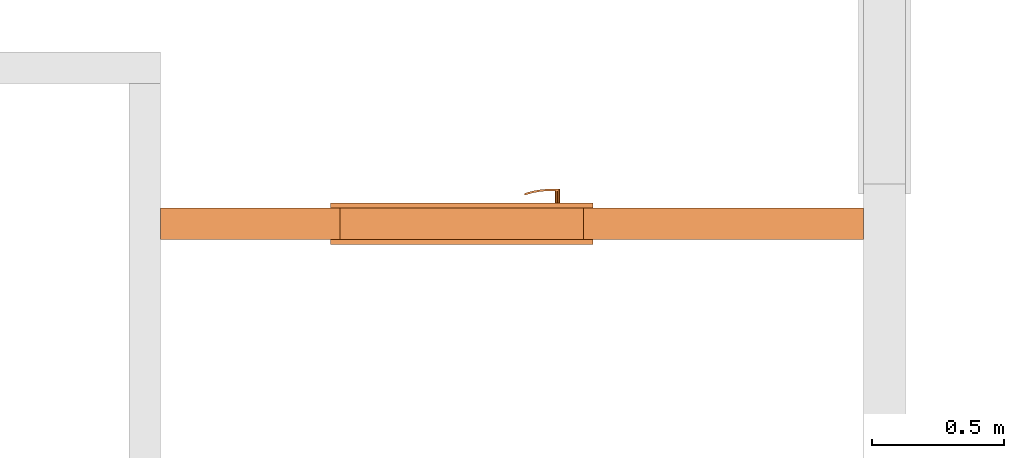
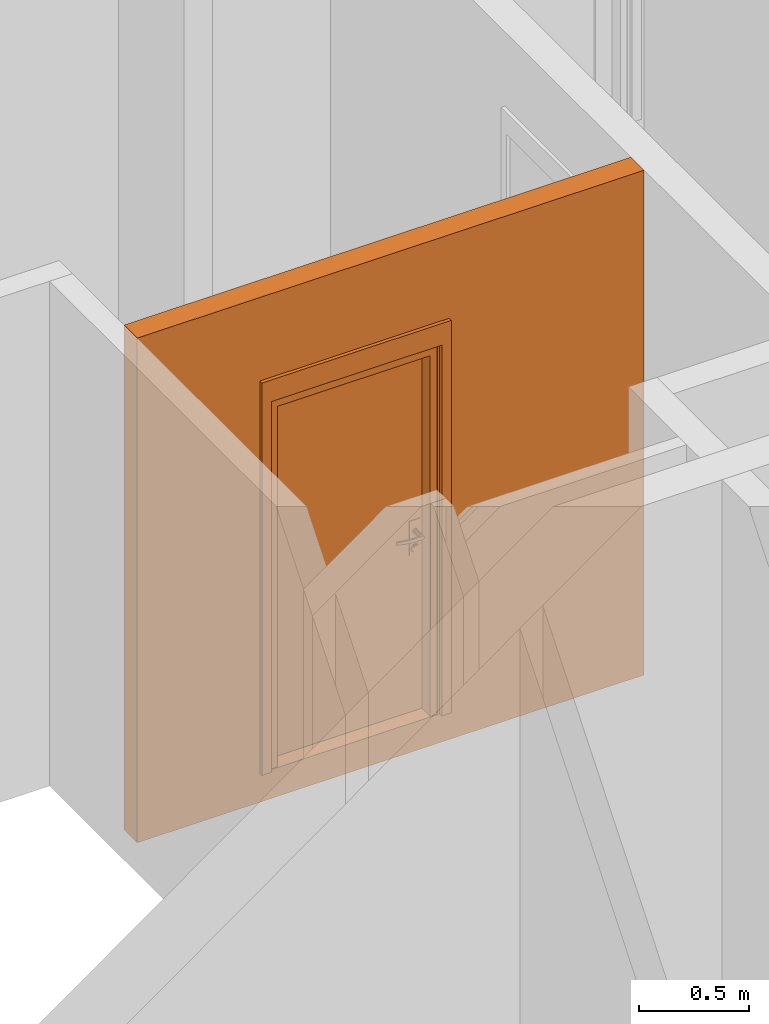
# One storey, part 9 of 64: 2 proxies, 1 opening.
"""IFC2X3 building model written with IfcOpenShell, lengths in millimetres."""

from ifc_helpers import new_model, entity, si_unit, converted_unit, derived_unit, money_unit, direction, frame, origin_with_axes, origin_2d_with_axis, place, context, subcontext, project, spatial, rectangle, extrude, open_shell, faceted_brep, surface_model, source, transform, mapped, material, type_object, element, fill, save


model = new_model("IFC2X3")

# Units and contexts
model_context = context("Model", 3, precision=0.01, world=origin_with_axes(), true_north=direction((0.34421633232, 0.938890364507)))
body_context = subcontext(model_context, "Body", "Model", "MODEL_VIEW")
ifc_project = project(units=[si_unit("LENGTHUNIT", "METRE", prefix="MILLI"), si_unit("AREAUNIT", "SQUARE_METRE"), si_unit("VOLUMEUNIT", "CUBIC_METRE"), converted_unit("PLANEANGLEUNIT", "DEGREE", entity("IfcPlaneAngleMeasure", 0.0174532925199), si_unit("PLANEANGLEUNIT", "RADIAN"), dimensions=[0, 0, 0, 0, 0, 0, 0]), si_unit("SOLIDANGLEUNIT", "STERADIAN"), money_unit("USD"), converted_unit("TIMEUNIT", "Year", entity("IfcTimeMeasure", 31556926.0), si_unit("TIMEUNIT", "SECOND"), dimensions=[0, 0, 1, 0, 0, 0, 0]), si_unit("MASSUNIT", "GRAM", prefix="KILO"), si_unit("THERMODYNAMICTEMPERATUREUNIT", "DEGREE_CELSIUS"), si_unit("LUMINOUSINTENSITYUNIT", "LUMEN"), si_unit("ENERGYUNIT", "JOULE", prefix="MEGA"), derived_unit("THERMALCONDUCTANCEUNIT", [(si_unit("POWERUNIT", "WATT"), 1), (si_unit("LENGTHUNIT", "METRE"), -1), (si_unit("THERMODYNAMICTEMPERATUREUNIT", "KELVIN"), -1)]), derived_unit("SPECIFICHEATCAPACITYUNIT", [(si_unit("ENERGYUNIT", "JOULE"), 1), (si_unit("MASSUNIT", "GRAM", prefix="KILO"), -1), (si_unit("THERMODYNAMICTEMPERATUREUNIT", "KELVIN"), -1)]), derived_unit("MASSDENSITYUNIT", [(si_unit("MASSUNIT", "GRAM", prefix="KILO"), 1), (si_unit("VOLUMEUNIT", "CUBIC_METRE"), -1)])], contexts=[model_context])

# Site, building, storey
site_placement = place(None, origin_with_axes())
site = spatial("IfcSite", under=ifc_project, at=site_placement, Name="USTRONIE MORSKIE", CompositionType="ELEMENT")
building_placement = place(site_placement, origin_with_axes())
building = spatial("IfcBuilding", under=site, at=building_placement, Name="Budynek", CompositionType="ELEMENT")
storey_placement = place(building_placement, frame((0.0, 0.0, 7000.0), z_axis=(0.0, 0.0, 1.0), x_axis=(1.0, 0.0, 0.0)))
storey = spatial("IfcBuildingStorey", under=building, at=storey_placement, Name="PIĘTRO 2", CompositionType="ELEMENT", Elevation=7000.0)

# Proxies, opening
ifc_material = material(Name="Bloczki silikatowe")
building_element_proxy_type_1 = type_object("IfcBuildingElementProxyType", Name="Bloczki silikatowe 120", PredefinedType="NOTDEFINED")
proxy_1_placement = place(storey_placement, frame((354717.920919, 717361.219701, -160.0), z_axis=(0.0, 0.0, 1.0), x_axis=(1.0, 0.0, 0.0)))
proxy_1 = element("IfcBuildingElementProxy", 1, at=proxy_1_placement, inside=storey, type_object=building_element_proxy_type_1, material=ifc_material, Name="SW-04", context=body_context, shape_type="Brep", body=[
    faceted_brep([(2720.0, 59.9999999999, 0.0), (2720.0, -59.9999999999, 0.0), (60.0, -59.9999999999, 0.0), (60.0, 59.9999999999, 0.0), (2720.0, 59.9999999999, 2800.0), (2720.0, -59.9999999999, 2800.0), (60.0, -59.9999999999, 2800.0), (60.0, 59.9999999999, 2800.0)], [[[0, 1, 2, 3]], [[1, 0, 4, 5]], [[1, 5, 6, 2]], [[7, 3, 2, 6]], [[4, 0, 3, 7]], [[5, 4, 7, 6]]]),
])
opening_placement = place(proxy_1_placement, frame((1200.0, 0.0, 160.0), z_axis=(0.0, 0.0, 1.0), x_axis=(1.0, 0.0, 0.0)))
opening = element("IfcOpeningElement", 2, at=opening_placement, cuts=proxy_1, Name="Dw.4", context=body_context, shape_type="SweptSolid", body=[
    extrude(rectangle(XDim=920.0, YDim=2070.0, at=origin_2d_with_axis()), frame((0.0, -120.0, 1035.0), z_axis=(0.0, -1.0, 0.0), x_axis=(-1.0, 0.0, 0.0)), (0.0, 0.0, -1.0), 360.0),
    extrude(rectangle(XDim=994.0, YDim=2177.0, at=origin_2d_with_axis()), frame((0.0, -59.9999999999, 1088.5), z_axis=(0.0, -1.0, 0.0), x_axis=(-1.0, 0.0, 0.0)), (0.0, 0.0, 1.0), 120.0),
    extrude(rectangle(XDim=994.0, YDim=2177.0, at=origin_2d_with_axis()), frame((0.0, 60.0000000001, 1088.5), z_axis=(0.0, 1.0, 0.0), x_axis=(-1.0, 0.0, 0.0)), (0.0, 0.0, 1.0), 120.0),
])
building_element_proxy_type_2 = type_object("IfcBuildingElementProxyType", Name="Drzwi 23", PredefinedType="NOTDEFINED")
shared_shape = source(origin_with_axes(), body_context, "Body", "SurfaceModel", [
    faceted_brep([(460.0, -115.0, 0.0), (460.0, -120.0, 0.0), (435.0, -120.0, 0.0), (435.0, -115.0, 0.0), (460.0, -115.0, 2070.0), (460.0, -120.0, 2070.0), (435.0, -120.0, 2045.0), (435.0, -115.0, 2045.0)], [[[0, 1, 2, 3]], [[4, 5, 1, 0]], [[1, 5, 6, 2]], [[3, 2, 6, 7]], [[0, 3, 7, 4]], [[7, 6, 5, 4]]]),
    faceted_brep([(-460.0, -115.0, 2070.0), (-460.0, -120.0, 2070.0), (-435.0, -120.0, 2045.0), (-435.0, -115.0, 2045.0), (-460.0, -115.0, 0.0), (-460.0, -120.0, 0.0), (-435.0, -120.0, 0.0), (-435.0, -115.0, 0.0)], [[[0, 1, 2, 3]], [[4, 5, 1, 0]], [[1, 5, 6, 2]], [[3, 2, 6, 7]], [[0, 3, 7, 4]], [[7, 6, 5, 4]]]),
    faceted_brep([(435.0, -115.0, 2045.0), (435.0, -120.0, 2045.0), (-435.0, -120.0, 2045.0), (-435.0, -115.0, 2045.0), (460.0, -115.0, 2070.0), (460.0, -120.0, 2070.0), (-460.0, -120.0, 2070.0), (-460.0, -115.0, 2070.0)], [[[0, 1, 2, 3]], [[4, 5, 1, 0]], [[1, 5, 6, 2]], [[3, 2, 6, 7]], [[0, 3, 7, 4]], [[7, 6, 5, 4]]]),
    faceted_brep([(497.0, -139.0, 0.0), (447.0, -139.0, 0.0), (447.0, -120.0, 0.0), (497.0, -120.0, 0.0), (497.0, -139.0, 2177.0), (447.0, -139.0, 2057.0), (447.0, -120.0, 2057.0), (497.0, -120.0, 2177.0)], [[[0, 1, 2, 3]], [[0, 4, 5, 1]], [[1, 5, 6, 2]], [[3, 2, 6, 7]], [[4, 0, 3, 7]], [[5, 4, 7, 6]]]),
    faceted_brep([(-497.0, -139.0, 2177.0), (-447.0, -139.0, 2057.0), (-447.0, -120.0, 2057.0), (-497.0, -120.0, 2177.0), (-497.0, -139.0, 0.0), (-447.0, -139.0, 0.0), (-447.0, -120.0, 0.0), (-497.0, -120.0, 0.0)], [[[0, 1, 2, 3]], [[0, 4, 5, 1]], [[1, 5, 6, 2]], [[3, 2, 6, 7]], [[4, 0, 3, 7]], [[5, 4, 7, 6]]]),
    faceted_brep([(497.0, -139.0, 2177.0), (447.0, -139.0, 2057.0), (447.0, -120.0, 2057.0), (497.0, -120.0, 2177.0), (-497.0, -139.0, 2177.0), (-447.0, -139.0, 2057.0), (-447.0, -120.0, 2057.0), (-497.0, -120.0, 2177.0)], [[[0, 1, 2, 3]], [[0, 4, 5, 1]], [[1, 5, 6, 2]], [[3, 2, 6, 7]], [[4, 0, 3, 7]], [[5, 4, 7, 6]]]),
    faceted_brep([(497.0, 19.0, 0.0), (497.0, 0.0, 0.0), (447.0, 0.0, 0.0), (447.0, 19.0, 0.0), (497.0, 19.0, 2177.0), (497.0, 0.0, 2177.0), (447.0, 0.0, 2057.0), (447.0, 19.0, 2057.0)], [[[0, 1, 2, 3]], [[4, 5, 1, 0]], [[1, 5, 6, 2]], [[3, 2, 6, 7]], [[0, 3, 7, 4]], [[7, 6, 5, 4]]]),
    faceted_brep([(-497.0, 19.0, 2177.0), (-497.0, 0.0, 2177.0), (-447.0, 0.0, 2057.0), (-447.0, 19.0, 2057.0), (-497.0, 19.0, 0.0), (-497.0, 0.0, 0.0), (-447.0, 0.0, 0.0), (-447.0, 19.0, 0.0)], [[[0, 1, 2, 3]], [[4, 5, 1, 0]], [[1, 5, 6, 2]], [[3, 2, 6, 7]], [[0, 3, 7, 4]], [[7, 6, 5, 4]]]),
    faceted_brep([(497.0, 19.0, 2177.0), (497.0, 0.0, 2177.0), (447.0, 0.0, 2057.0), (447.0, 19.0, 2057.0), (-497.0, 19.0, 2177.0), (-497.0, 0.0, 2177.0), (-447.0, 0.0, 2057.0), (-447.0, 19.0, 2057.0)], [[[0, 1, 2, 3]], [[4, 5, 1, 0]], [[1, 5, 6, 2]], [[3, 2, 6, 7]], [[0, 3, 7, 4]], [[7, 6, 5, 4]]]),
    faceted_brep([(400.0, -40.0, 0.0), (400.0, -115.0, 0.0), (400.0, -115.0, 2000.0), (400.0, -40.0, 2000.0), (412.0, -40.0, 0.0), (412.0, 0.0, 0.0), (460.0, 0.0, 0.0), (460.0, -115.0, 0.0), (460.0, -115.0, 2000.0), (412.0, -40.0, 2000.0), (460.0, 0.0, 2000.0), (412.0, 0.0, 2000.0)], [[[0, 1, 2, 3]], [[4, 5, 6, 7, 1, 0]], [[1, 7, 8, 2]], [[9, 3, 2, 8, 10, 11]], [[9, 4, 0, 3]], [[11, 5, 4, 9]], [[11, 10, 6, 5]], [[6, 10, 8, 7]]]),
    faceted_brep([(-412.0, -40.0, 2000.0), (-412.0, 0.0, 2000.0), (-460.0, 0.0, 2000.0), (-460.0, -115.0, 2000.0), (-400.0, -115.0, 2000.0), (-400.0, -40.0, 2000.0), (-412.0, -40.0, 0.0), (-412.0, 0.0, 0.0), (-460.0, 0.0, 0.0), (-460.0, -115.0, 0.0), (-400.0, -115.0, 0.0), (-400.0, -40.0, 0.0)], [[[0, 1, 2, 3, 4, 5]], [[0, 6, 7, 1]], [[7, 8, 2, 1]], [[2, 8, 9, 3]], [[3, 9, 10, 4]], [[5, 4, 10, 11]], [[5, 11, 6, 0]], [[6, 11, 10, 9, 8, 7]]]),
    faceted_brep([(412.0, 0.0, 2012.0), (-412.0, 0.0, 2012.0), (-412.0, 0.0, 2000.0), (-460.0, 0.0, 2000.0), (-460.0, 0.0, 2070.0), (460.0, 0.0, 2070.0), (460.0, 0.0, 2000.0), (412.0, 0.0, 2000.0), (412.0, -40.0, 2012.0), (-412.0, -40.0, 2012.0), (-412.0, -40.0, 2000.0), (-400.0, -40.0, 2000.0), (-400.0, -115.0, 2000.0), (-460.0, -115.0, 2000.0), (-460.0, -115.0, 2070.0), (460.0, -115.0, 2070.0), (460.0, -115.0, 2000.0), (412.0, -40.0, 2000.0), (400.0, -115.0, 2000.0), (400.0, -40.0, 2000.0)], [[[0, 1, 2, 3, 4, 5, 6, 7]], [[0, 8, 9, 1]], [[1, 9, 10, 2]], [[10, 11, 12, 13, 3, 2]], [[4, 3, 13, 14]], [[5, 4, 14, 15]], [[6, 5, 15, 16]], [[17, 7, 6, 16, 18, 19]], [[7, 17, 8, 0]], [[10, 9, 8, 17, 19, 11]], [[19, 18, 12, 11]], [[12, 18, 16, 15, 14, 13]]]),
    faceted_brep([(390.5, -40.0, 1060.0), (333.5, -40.0, 1060.0), (333.5, -43.0, 1060.0), (390.5, -43.0, 1060.0), (390.5, -40.0, 870.0), (333.5, -40.0, 870.0), (333.5, -43.0, 870.0), (390.5, -43.0, 870.0)], [[[0, 1, 2, 3]], [[0, 4, 5, 1]], [[1, 5, 6, 2]], [[3, 2, 6, 7]], [[4, 0, 3, 7]], [[5, 4, 7, 6]]]),
    faceted_brep([(362.0, -104.0, 990.0), (367.0, -104.0, 991.339745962), (367.0, -111.0, 991.339745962), (362.0, -111.0, 990.0), (337.0, -104.0, 990.0), (337.0, -104.0, 1010.0), (362.0, -104.0, 1010.0), (367.0, -104.0, 1008.66025404), (370.660254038, -104.0, 1005.0), (372.0, -104.0, 1000.0), (370.660254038, -104.0, 995.0), (370.660254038, -111.0, 995.0), (372.0, -111.0, 1000.0), (370.660254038, -111.0, 1005.0), (367.0, -111.0, 1008.66025404), (362.0, -111.0, 1010.0), (337.0, -111.0, 1010.0), (337.0, -111.0, 990.0)], [[[0, 1, 2, 3]], [[0, 4, 5, 6, 7, 8, 9, 10, 1]], [[1, 10, 11, 2]], [[3, 2, 11, 12, 13, 14, 15, 16, 17]], [[4, 0, 3, 17]], [[5, 4, 17, 16]], [[6, 5, 16, 15]], [[7, 6, 15, 14]], [[8, 7, 14, 13]], [[9, 8, 13, 12]], [[10, 9, 12, 11]]]),
    surface_model("IfcShellBasedSurfaceModel", [(337.0, -104.0, 1010.0), (323.901717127, -104.0, 1009.60730092), (323.596090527, -111.0, 1009.60730092), (337.0, -104.0, 990.0), (323.901717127, -104.0, 990.392699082), (296.890283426, -108.663544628, 1008.82190275), (337.0, -111.0, 1010.0), (337.0, -111.0, 990.0), (297.804837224, -101.716818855, 991.178097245), (297.804837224, -101.716818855, 1008.82190275), (296.890283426, -108.663544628, 991.178097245), (323.596090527, -111.0, 990.392699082), (272.006256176, -97.1678329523, 991.963495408), (272.006256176, -97.1678329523, 1008.03650459), (270.489735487, -104.008415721, 1008.03650459), (270.489735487, -104.008415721, 991.963495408), (246.702316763, -90.3876628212, 992.748893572), (246.702316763, -90.3876628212, 1007.25110643), (244.59537082, -97.0700416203, 1007.25110643), (244.59537082, -97.0700416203, 992.748893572), (238.829442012, -87.5221707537, 993.0), (238.829442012, -87.5221707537, 1007.0), (236.538795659, -94.1376880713, 1007.0), (236.538795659, -94.1376880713, 993.0)], [open_shell([[[0, 1, 2]], [[0, 3, 4, 1]], [[1, 5, 2]], [[0, 2, 6]], [[4, 3, 7]], [[1, 4, 8, 9]], [[1, 9, 5]], [[2, 5, 10, 11]], [[6, 2, 11, 7]], [[4, 7, 11]], [[8, 4, 11]], [[9, 8, 12, 13]], [[9, 14, 5]], [[5, 14, 15, 10]], [[8, 11, 10]], [[12, 8, 10]], [[13, 12, 16, 17]], [[9, 13, 14]], [[14, 18, 19, 15]], [[12, 10, 15]], [[16, 12, 15]], [[17, 16, 20, 21]], [[13, 17, 18]], [[13, 18, 14]], [[18, 22, 23, 19]], [[16, 15, 19]], [[20, 16, 19]], [[21, 20, 23, 22]], [[17, 21, 22]], [[17, 22, 18]], [[20, 19, 23]]])]),
    faceted_brep([(351.607695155, -53.0, 994.0), (350.0, -53.0, 1000.0), (349.0, -43.0, 1000.0), (350.741669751, -43.0, 993.5), (356.0, -53.0, 989.607695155), (362.0, -53.0, 988.0), (368.0, -53.0, 989.607695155), (372.392304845, -53.0, 994.0), (374.0, -53.0, 1000.0), (372.392304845, -53.0, 1006.0), (368.0, -53.0, 1010.39230485), (362.0, -53.0, 1012.0), (356.0, -53.0, 1010.39230485), (351.607695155, -53.0, 1006.0), (350.741669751, -43.0, 1006.5), (355.5, -43.0, 1011.25833025), (362.0, -43.0, 1013.0), (368.5, -43.0, 1011.25833025), (373.258330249, -43.0, 1006.5), (375.0, -43.0, 1000.0), (373.258330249, -43.0, 993.5), (368.5, -43.0, 988.741669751), (362.0, -43.0, 987.0), (355.5, -43.0, 988.741669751)], [[[0, 1, 2, 3]], [[1, 0, 4, 5, 6, 7, 8, 9, 10, 11, 12, 13]], [[1, 13, 14, 2]], [[2, 14, 15, 16, 17, 18, 19, 20, 21, 22, 23, 3]], [[4, 0, 3, 23]], [[5, 4, 23, 22]], [[6, 5, 22, 21]], [[7, 6, 21, 20]], [[8, 7, 20, 19]], [[9, 8, 19, 18]], [[10, 9, 18, 17]], [[11, 10, 17, 16]], [[12, 11, 16, 15]], [[13, 12, 15, 14]]]),
    faceted_brep([(344.679491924, -47.0, 895.0), (342.0, -47.0, 905.0), (340.0, -43.0, 905.0), (342.947441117, -43.0, 894.0), (352.0, -47.0, 887.679491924), (362.0, -47.0, 885.0), (372.0, -47.0, 887.679491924), (379.320508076, -47.0, 895.0), (382.0, -47.0, 905.0), (379.320508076, -47.0, 915.0), (372.0, -47.0, 922.320508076), (362.0, -47.0, 925.0), (352.0, -47.0, 922.320508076), (344.679491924, -47.0, 915.0), (342.947441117, -43.0, 916.0), (351.0, -43.0, 924.052558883), (362.0, -43.0, 927.0), (373.0, -43.0, 924.052558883), (381.052558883, -43.0, 916.0), (384.0, -43.0, 905.0), (381.052558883, -43.0, 894.0), (373.0, -43.0, 885.947441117), (362.0, -43.0, 883.0), (351.0, -43.0, 885.947441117)], [[[0, 1, 2, 3]], [[1, 0, 4, 5, 6, 7, 8, 9, 10, 11, 12, 13]], [[1, 13, 14, 2]], [[2, 14, 15, 16, 17, 18, 19, 20, 21, 22, 23, 3]], [[4, 0, 3, 23]], [[5, 4, 23, 22]], [[6, 5, 22, 21]], [[7, 6, 21, 20]], [[8, 7, 20, 19]], [[9, 8, 19, 18]], [[10, 9, 18, 17]], [[11, 10, 17, 16]], [[12, 11, 16, 15]], [[13, 12, 15, 14]]]),
    faceted_brep([(357.050252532, -49.0, 909.050252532), (355.0, -49.0, 914.0), (354.0, -47.0, 914.0), (356.343145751, -47.0, 908.343145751), (362.0, -49.0, 907.0), (366.949747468, -49.0, 909.050252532), (369.0, -49.0, 914.0), (366.949747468, -49.0, 918.949747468), (362.0, -49.0, 921.0), (357.050252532, -49.0, 918.949747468), (356.343145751, -47.0, 919.656854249), (362.0, -47.0, 922.0), (367.656854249, -47.0, 919.656854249), (370.0, -47.0, 914.0), (367.656854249, -47.0, 908.343145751), (362.0, -47.0, 906.0)], [[[0, 1, 2, 3]], [[1, 0, 4, 5, 6, 7, 8, 9]], [[1, 9, 10, 2]], [[2, 10, 11, 12, 13, 14, 15, 3]], [[4, 0, 3, 15]], [[5, 4, 15, 14]], [[6, 5, 14, 13]], [[7, 6, 13, 12]], [[8, 7, 12, 11]], [[9, 8, 11, 10]]]),
    faceted_brep([(362.0, -53.0, 1010.0), (357.0, -53.0, 1008.66025404), (357.0, -104.0, 1008.66025404), (362.0, -104.0, 1010.0), (367.0, -53.0, 1008.66025404), (370.660254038, -53.0, 1005.0), (372.0, -53.0, 1000.0), (370.660254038, -53.0, 995.0), (367.0, -53.0, 991.339745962), (362.0, -53.0, 990.0), (357.0, -53.0, 991.339745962), (353.339745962, -53.0, 995.0), (352.0, -53.0, 1000.0), (353.339745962, -53.0, 1005.0), (353.339745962, -104.0, 1005.0), (352.0, -104.0, 1000.0), (353.339745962, -104.0, 995.0), (357.0, -104.0, 991.339745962), (362.0, -104.0, 990.0), (367.0, -104.0, 991.339745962), (370.660254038, -104.0, 995.0), (372.0, -104.0, 1000.0), (370.660254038, -104.0, 1005.0), (367.0, -104.0, 1008.66025404)], [[[0, 1, 2, 3]], [[0, 4, 5, 6, 7, 8, 9, 10, 11, 12, 13, 1]], [[1, 13, 14, 2]], [[3, 2, 14, 15, 16, 17, 18, 19, 20, 21, 22, 23]], [[4, 0, 3, 23]], [[5, 4, 23, 22]], [[6, 5, 22, 21]], [[7, 6, 21, 20]], [[8, 7, 20, 19]], [[9, 8, 19, 18]], [[10, 9, 18, 17]], [[11, 10, 17, 16]], [[12, 11, 16, 15]], [[13, 12, 15, 14]]]),
    faceted_brep([(390.5, 0.0, 1060.0), (390.5, 3.0, 1060.0), (333.5, 3.0, 1060.0), (333.5, 0.0, 1060.0), (390.5, 0.0, 870.0), (390.5, 3.0, 870.0), (333.5, 3.0, 870.0), (333.5, 0.0, 870.0)], [[[0, 1, 2, 3]], [[4, 5, 1, 0]], [[1, 5, 6, 2]], [[3, 2, 6, 7]], [[0, 3, 7, 4]], [[7, 6, 5, 4]]]),
    faceted_brep([(362.0, 64.0, 990.0), (362.0, 71.0, 990.0), (367.0, 71.0, 991.339745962), (367.0, 64.0, 991.339745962), (337.0, 64.0, 990.0), (337.0, 71.0, 990.0), (337.0, 71.0, 1010.0), (362.0, 71.0, 1010.0), (367.0, 71.0, 1008.66025404), (370.660254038, 71.0, 1005.0), (372.0, 71.0, 1000.0), (370.660254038, 71.0, 995.0), (370.660254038, 64.0, 995.0), (372.0, 64.0, 1000.0), (370.660254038, 64.0, 1005.0), (367.0, 64.0, 1008.66025404), (362.0, 64.0, 1010.0), (337.0, 64.0, 1010.0)], [[[0, 1, 2, 3]], [[4, 5, 1, 0]], [[1, 5, 6, 7, 8, 9, 10, 11, 2]], [[3, 2, 11, 12]], [[0, 3, 12, 13, 14, 15, 16, 17, 4]], [[17, 6, 5, 4]], [[16, 7, 6, 17]], [[15, 8, 7, 16]], [[14, 9, 8, 15]], [[13, 10, 9, 14]], [[12, 11, 10, 13]]]),
    surface_model("IfcShellBasedSurfaceModel", [(337.0, 64.0, 1010.0), (323.596090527, 71.0, 1009.60730092), (323.901717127, 64.0, 1009.60730092), (337.0, 71.0, 1010.0), (296.890283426, 68.6635446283, 1008.82190275), (323.901717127, 64.0, 990.392699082), (337.0, 64.0, 990.0), (337.0, 71.0, 990.0), (323.596090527, 71.0, 990.392699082), (296.890283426, 68.6635446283, 991.178097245), (297.804837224, 61.716818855, 1008.82190275), (297.804837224, 61.716818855, 991.178097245), (270.489735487, 64.0084157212, 991.963495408), (270.489735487, 64.0084157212, 1008.03650459), (272.006256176, 57.1678329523, 1008.03650459), (272.006256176, 57.1678329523, 991.963495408), (244.59537082, 57.0700416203, 992.748893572), (244.59537082, 57.0700416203, 1007.25110643), (246.702316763, 50.3876628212, 1007.25110643), (246.702316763, 50.3876628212, 992.748893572), (236.538795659, 54.1376880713, 993.0), (236.538795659, 54.1376880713, 1007.0), (238.829442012, 47.5221707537, 1007.0), (238.829442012, 47.5221707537, 993.0)], [open_shell([[[0, 1, 2]], [[0, 3, 1]], [[2, 1, 4]], [[0, 2, 5, 6]], [[3, 7, 8, 1]], [[1, 8, 9, 4]], [[2, 4, 10]], [[2, 10, 11, 5]], [[5, 7, 6]], [[5, 8, 7]], [[11, 9, 8]], [[4, 9, 12, 13]], [[10, 4, 13]], [[10, 14, 15, 11]], [[11, 8, 5]], [[15, 9, 11]], [[15, 12, 9]], [[13, 12, 16, 17]], [[10, 13, 14]], [[14, 18, 19, 15]], [[19, 12, 15]], [[19, 16, 12]], [[17, 16, 20, 21]], [[14, 13, 17]], [[14, 17, 18]], [[18, 22, 23, 19]], [[23, 16, 19]], [[23, 20, 16]], [[22, 21, 20, 23]], [[18, 17, 21]], [[18, 21, 22]]])]),
    faceted_brep([(351.607695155, 13.0, 994.0), (350.741669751, 3.0, 993.5), (349.0, 3.0, 1000.0), (350.0, 13.0, 1000.0), (356.0, 13.0, 989.607695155), (355.5, 3.0, 988.741669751), (362.0, 3.0, 987.0), (368.5, 3.0, 988.741669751), (373.258330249, 3.0, 993.5), (375.0, 3.0, 1000.0), (373.258330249, 3.0, 1006.5), (368.5, 3.0, 1011.25833025), (362.0, 3.0, 1013.0), (355.5, 3.0, 1011.25833025), (350.741669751, 3.0, 1006.5), (351.607695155, 13.0, 1006.0), (356.0, 13.0, 1010.39230485), (362.0, 13.0, 1012.0), (368.0, 13.0, 1010.39230485), (372.392304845, 13.0, 1006.0), (374.0, 13.0, 1000.0), (372.392304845, 13.0, 994.0), (368.0, 13.0, 989.607695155), (362.0, 13.0, 988.0)], [[[0, 1, 2, 3]], [[4, 5, 1, 0]], [[2, 1, 5, 6, 7, 8, 9, 10, 11, 12, 13, 14]], [[3, 2, 14, 15]], [[3, 15, 16, 17, 18, 19, 20, 21, 22, 23, 4, 0]], [[23, 6, 5, 4]], [[22, 7, 6, 23]], [[21, 8, 7, 22]], [[20, 9, 8, 21]], [[19, 10, 9, 20]], [[18, 11, 10, 19]], [[17, 12, 11, 18]], [[16, 13, 12, 17]], [[15, 14, 13, 16]]]),
    faceted_brep([(344.679491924, 7.0, 895.0), (342.947441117, 3.0, 894.0), (340.0, 3.0, 905.0), (342.0, 7.0, 905.0), (352.0, 7.0, 887.679491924), (351.0, 3.0, 885.947441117), (362.0, 3.0, 883.0), (373.0, 3.0, 885.947441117), (381.052558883, 3.0, 894.0), (384.0, 3.0, 905.0), (381.052558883, 3.0, 916.0), (373.0, 3.0, 924.052558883), (362.0, 3.0, 927.0), (351.0, 3.0, 924.052558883), (342.947441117, 3.0, 916.0), (344.679491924, 7.0, 915.0), (352.0, 7.0, 922.320508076), (362.0, 7.0, 925.0), (372.0, 7.0, 922.320508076), (379.320508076, 7.0, 915.0), (382.0, 7.0, 905.0), (379.320508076, 7.0, 895.0), (372.0, 7.0, 887.679491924), (362.0, 7.0, 885.0)], [[[0, 1, 2, 3]], [[4, 5, 1, 0]], [[2, 1, 5, 6, 7, 8, 9, 10, 11, 12, 13, 14]], [[3, 2, 14, 15]], [[3, 15, 16, 17, 18, 19, 20, 21, 22, 23, 4, 0]], [[23, 6, 5, 4]], [[22, 7, 6, 23]], [[21, 8, 7, 22]], [[20, 9, 8, 21]], [[19, 10, 9, 20]], [[18, 11, 10, 19]], [[17, 12, 11, 18]], [[16, 13, 12, 17]], [[15, 14, 13, 16]]]),
    faceted_brep([(357.050252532, 9.0, 909.050252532), (356.343145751, 7.0, 908.343145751), (354.0, 7.0, 914.0), (355.0, 9.0, 914.0), (362.0, 9.0, 907.0), (362.0, 7.0, 906.0), (367.656854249, 7.0, 908.343145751), (370.0, 7.0, 914.0), (367.656854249, 7.0, 919.656854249), (362.0, 7.0, 922.0), (356.343145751, 7.0, 919.656854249), (357.050252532, 9.0, 918.949747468), (362.0, 9.0, 921.0), (366.949747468, 9.0, 918.949747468), (369.0, 9.0, 914.0), (366.949747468, 9.0, 909.050252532)], [[[0, 1, 2, 3]], [[4, 5, 1, 0]], [[2, 1, 5, 6, 7, 8, 9, 10]], [[3, 2, 10, 11]], [[3, 11, 12, 13, 14, 15, 4, 0]], [[15, 6, 5, 4]], [[14, 7, 6, 15]], [[13, 8, 7, 14]], [[12, 9, 8, 13]], [[11, 10, 9, 12]]]),
    faceted_brep([(362.0, 13.0, 1010.0), (362.0, 64.0, 1010.0), (357.0, 64.0, 1008.66025404), (357.0, 13.0, 1008.66025404), (367.0, 13.0, 1008.66025404), (367.0, 64.0, 1008.66025404), (370.660254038, 64.0, 1005.0), (372.0, 64.0, 1000.0), (370.660254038, 64.0, 995.0), (367.0, 64.0, 991.339745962), (362.0, 64.0, 990.0), (357.0, 64.0, 991.339745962), (353.339745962, 64.0, 995.0), (352.0, 64.0, 1000.0), (353.339745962, 64.0, 1005.0), (353.339745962, 13.0, 1005.0), (352.0, 13.0, 1000.0), (353.339745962, 13.0, 995.0), (357.0, 13.0, 991.339745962), (362.0, 13.0, 990.0), (367.0, 13.0, 991.339745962), (370.660254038, 13.0, 995.0), (372.0, 13.0, 1000.0), (370.660254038, 13.0, 1005.0)], [[[0, 1, 2, 3]], [[4, 5, 1, 0]], [[1, 5, 6, 7, 8, 9, 10, 11, 12, 13, 14, 2]], [[3, 2, 14, 15]], [[0, 3, 15, 16, 17, 18, 19, 20, 21, 22, 23, 4]], [[23, 6, 5, 4]], [[22, 7, 6, 23]], [[21, 8, 7, 22]], [[20, 9, 8, 21]], [[19, 10, 9, 20]], [[18, 11, 10, 19]], [[17, 12, 11, 18]], [[16, 13, 12, 17]], [[15, 14, 13, 16]]]),
    faceted_brep([(-412.0, 0.0, 0.0), (412.0, 0.0, 0.0), (412.0, -40.0, 0.0), (-412.0, -40.0, 0.0), (-412.0, 0.0, 2012.0), (412.0, 0.0, 2012.0), (412.0, -40.0, 2012.0), (-412.0, -40.0, 2012.0)], [[[0, 1, 2, 3]], [[0, 4, 5, 1]], [[1, 5, 6, 2]], [[3, 2, 6, 7]], [[4, 0, 3, 7]], [[5, 4, 7, 6]]]),
])
proxy_2_placement = place(opening_placement, frame((-400.0, 0.0, 0.0), z_axis=(0.0, 0.0, 1.0), x_axis=(1.0, 0.0, 0.0)))
proxy_2 = element("IfcBuildingElementProxy", 3, at=proxy_2_placement, inside=storey, type_object=building_element_proxy_type_2, Name="Dw.4", context=body_context, shape_type="MappedRepresentation", body=[
    mapped(shared_shape, transform((400.0, 60.0000000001, 0.0))),
])
fill(opening, proxy_2)

save(model, "model.ifc")
